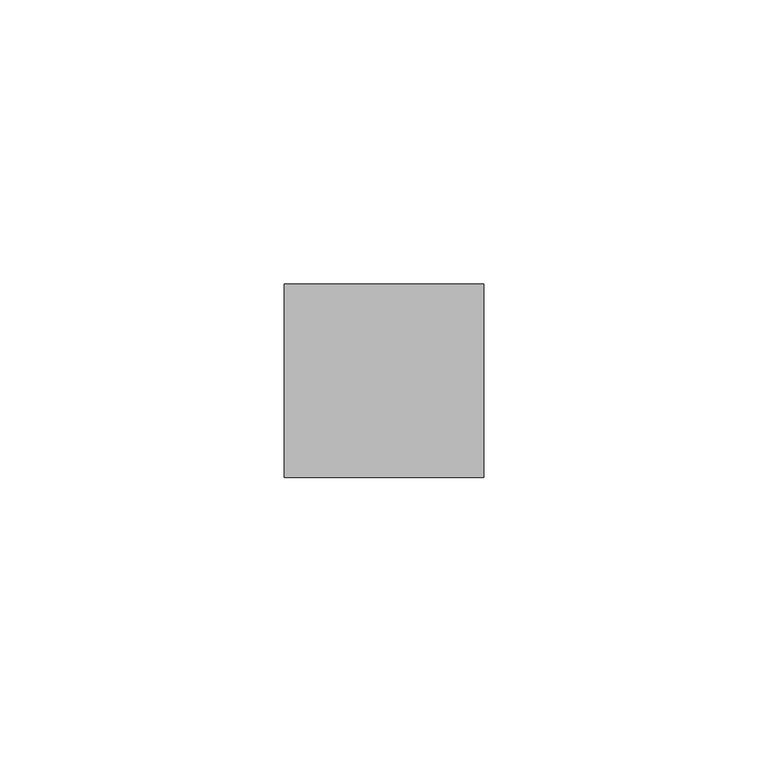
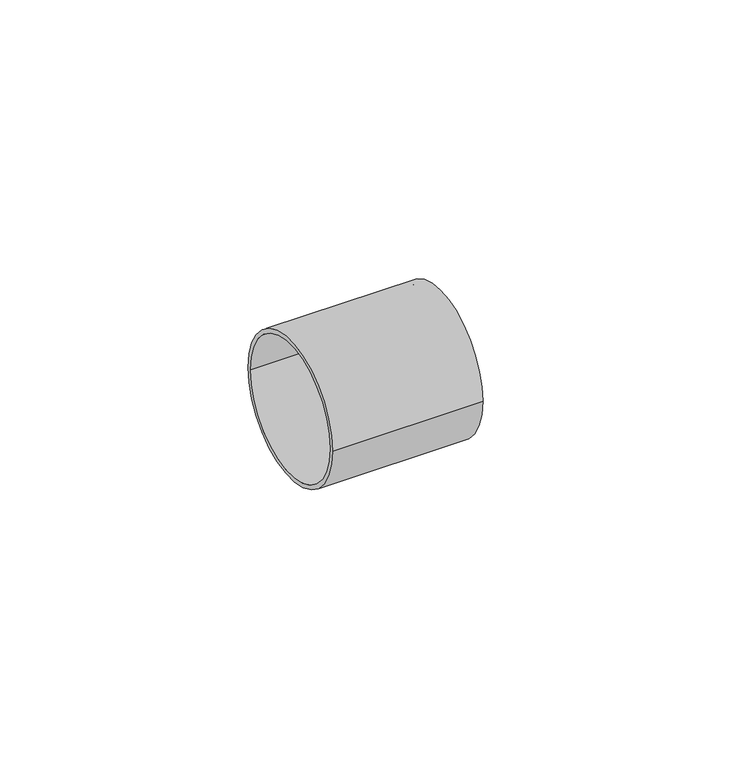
"""IFC4 building model written with IfcOpenShell, lengths in millimetres: pipe fitting geometry, Pipelife - VRD - Zaślepka : Pipelife - VRD - Zaślepka."""

from ifc_helpers import new_model, si_unit, frame, origin, place, context, project, spatial, polyline, circle_curve, source, transform, mapped, element, save
from ifc_brep_helpers import plane_surface, cylinder_surface, revolved_surface, advanced_brep


def pipe_fitting_2061612c(model_context):
    return source(origin(), model_context, "Body", "AdvancedBrep", [
        advanced_brep(
        [(-34.0, -17.0, 0.0), (-34.0, 17.0, 0.0), (-34.0, 16.0, 0.0), (-34.0, -16.0, 0.0), (1.0, -17.0, 0.0), (1.0, 17.0, 0.0), (0.0, -16.0, 0.0), (0.0, 16.0, 0.0)],
        [
            (0, 1, circle_curve(frame((-34.0, 0.0, 0.0), z_axis=(-1.0, 0.0, 0.0), x_axis=(0.0, 1.0, 0.0)), 17.0)),
            (1, 0, circle_curve(frame((-34.0, 0.0, 0.0), z_axis=(-1.0, 0.0, 0.0), x_axis=(0.0, 1.0, 0.0)), 17.0)),
            (2, 3, circle_curve(frame((-34.0, 0.0, 0.0), z_axis=(1.0, 0.0, 0.0), x_axis=(0.0, 1.0, 0.0)), 16.0)),
            (3, 2, circle_curve(frame((-34.0, 0.0, 0.0), z_axis=(1.0, 0.0, 0.0), x_axis=(0.0, 1.0, 0.0)), 16.0)),
            (4, 5, circle_curve(frame((1.0, 0.0, 0.0), z_axis=(1.0, 0.0, 0.0), x_axis=(0.0, 1.0, 0.0)), 17.0)),
            (5, 4, circle_curve(frame((1.0, 0.0, 0.0), z_axis=(1.0, 0.0, 0.0), x_axis=(0.0, 1.0, 0.0)), 17.0)),
            (0, 4),
            (5, 1),
            (6, 7, circle_curve(frame((0.0, 0.0, 0.0), z_axis=(-1.0, 0.0, 0.0), x_axis=(0.0, 1.0, 0.0)), 16.0)),
            (7, 6, circle_curve(frame((0.0, 0.0, 0.0), z_axis=(-1.0, 0.0, 0.0), x_axis=(0.0, 1.0, 0.0)), 16.0)),
            (6, 3),
            (2, 7),
        ],
        [
            plane_surface(frame((-34.0, 0.0, 0.0), z_axis=(-1.0, 0.0, 0.0), x_axis=(0.0, 0.0, 1.0))),
            plane_surface(frame((1.0, 0.0, 0.0), z_axis=(1.0, 0.0, 0.0), x_axis=(0.0, 0.0, 1.0))),
            cylinder_surface(frame((-34.0, 0.0, 0.0), z_axis=(-1.0, 0.0, 0.0), x_axis=(0.0, 1.0, 0.0)), 17.0),
            plane_surface(frame((0.0, 0.0, 0.0), z_axis=(-1.0, 0.0, 0.0), x_axis=(0.0, 0.0, 1.0))),
            revolved_surface(polyline([(-34.0, 16.0, 0.0), (0.0, 16.0, 0.0)]), (-34.0, 0.0, 0.0), (-1.0, 0.0, 0.0)),
        ],
        [
            (0, [[1, 2], [3, 4]]),
            (1, [[5, 6]]),
            (2, [[-1, 7, -6, 8]]),
            (2, [[-2, -8, -5, -7]]),
            (3, [[9, 10]]),
            (4, [[-9, 11, -3, 12]]),
            (4, [[-10, -12, -4, -11]]),
        ],
    ),
    ])


if __name__ == "__main__":
    model = new_model("IFC4")
    model_context = context("Model", 3, world=origin())
    ifc_project = project(units=[si_unit("LENGTHUNIT", "METRE", prefix="MILLI")], contexts=[model_context])
    site = spatial("IfcSite", under=ifc_project)
    building = spatial("IfcBuilding", under=site)
    placement = place(None, origin())
    pipe_fitting_shape = pipe_fitting_2061612c(model_context)
    element("IfcPipeFitting", 1, ObjectType="Pipelife - VRD - Zaślepka : Pipelife - VRD - Zaślepka", at=placement, inside=building, context=model_context, shape_type="MappedRepresentation", body=[
        mapped(pipe_fitting_shape, transform((0.0, 0.0, 0.0), x_axis=(1.0, 0.0, 0.0), y_axis=(0.0, 1.0, 0.0), z_axis=(0.0, 0.0, 1.0))),
    ])
    save(model, "model.ifc")
